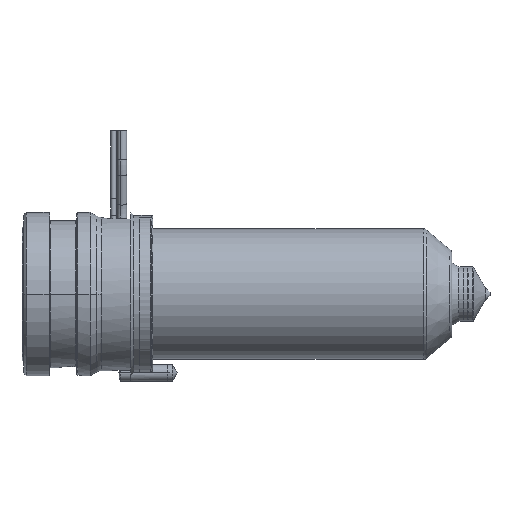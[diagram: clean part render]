
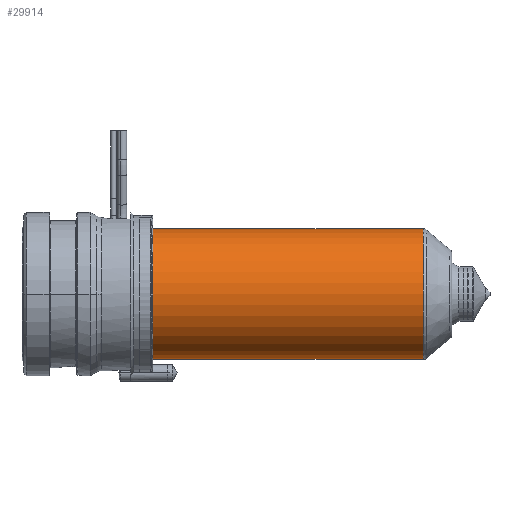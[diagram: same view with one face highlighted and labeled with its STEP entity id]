
A CAD part, left-side view. The second image highlights one B-rep face of the part: STEP entity #29914.
In plain terms, the highlighted cylindrical face has radius 12 mm (diameter 24 mm), a partial arc.
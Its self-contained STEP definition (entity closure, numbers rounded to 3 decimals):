
#29399=CARTESIAN_POINT('',(0.,-24.,0.));
#29400=DIRECTION('',(0.,1.,0.));
#29401=DIRECTION('',(0.,0.,-1.));
#29402=AXIS2_PLACEMENT_3D('',#29399,#29400,#29401);
#29407=DIRECTION('',(0.,1.,0.));
#29408=VECTOR('',#29407,49.736);
#29409=CARTESIAN_POINT('',(0.,-73.736,12.));
#29410=LINE('',#29409,#29408);
#29422=DIRECTION('',(0.,1.,0.));
#29423=VECTOR('',#29422,49.736);
#29424=CARTESIAN_POINT('',(0.,-73.736,-12.));
#29425=LINE('',#29424,#29423);
#29453=CARTESIAN_POINT('',(0.,-73.736,0.));
#29454=DIRECTION('',(0.,-1.,0.));
#29455=DIRECTION('',(0.,0.,1.));
#29456=AXIS2_PLACEMENT_3D('',#29453,#29454,#29455);
#29783=CARTESIAN_POINT('',(0.,-73.736,12.));
#29784=CARTESIAN_POINT('',(0.,-24.,12.));
#29785=VERTEX_POINT('',#29783);
#29786=VERTEX_POINT('',#29784);
#29787=CARTESIAN_POINT('',(0.,-73.736,-12.));
#29788=CARTESIAN_POINT('',(0.,-24.,-12.));
#29789=VERTEX_POINT('',#29787);
#29790=VERTEX_POINT('',#29788);
#29900=CARTESIAN_POINT('',(0.,-16.7,0.));
#29901=DIRECTION('',(0.,-1.,0.));
#29902=DIRECTION('',(0.,0.,1.));
#29903=AXIS2_PLACEMENT_3D('',#29900,#29901,#29902);
#29904=CYLINDRICAL_SURFACE('',#29903,12.);
#29906=ORIENTED_EDGE('',*,*,#29905,.F.);
#29908=ORIENTED_EDGE('',*,*,#29907,.T.);
#29910=ORIENTED_EDGE('',*,*,#29909,.T.);
#29911=ORIENTED_EDGE('',*,*,#29893,.T.);
#29912=EDGE_LOOP('',(#29906,#29908,#29910,#29911));
#29913=FACE_OUTER_BOUND('',#29912,.F.);
#29914=ADVANCED_FACE('',(#29913),#29904,.T.);
#29403=CIRCLE('',#29402,12.);
#29457=CIRCLE('',#29456,12.);
#29893=EDGE_CURVE('',#29790,#29786,#29403,.T.);
#29905=EDGE_CURVE('',#29785,#29786,#29410,.T.);
#29907=EDGE_CURVE('',#29785,#29789,#29457,.T.);
#29909=EDGE_CURVE('',#29789,#29790,#29425,.T.);
